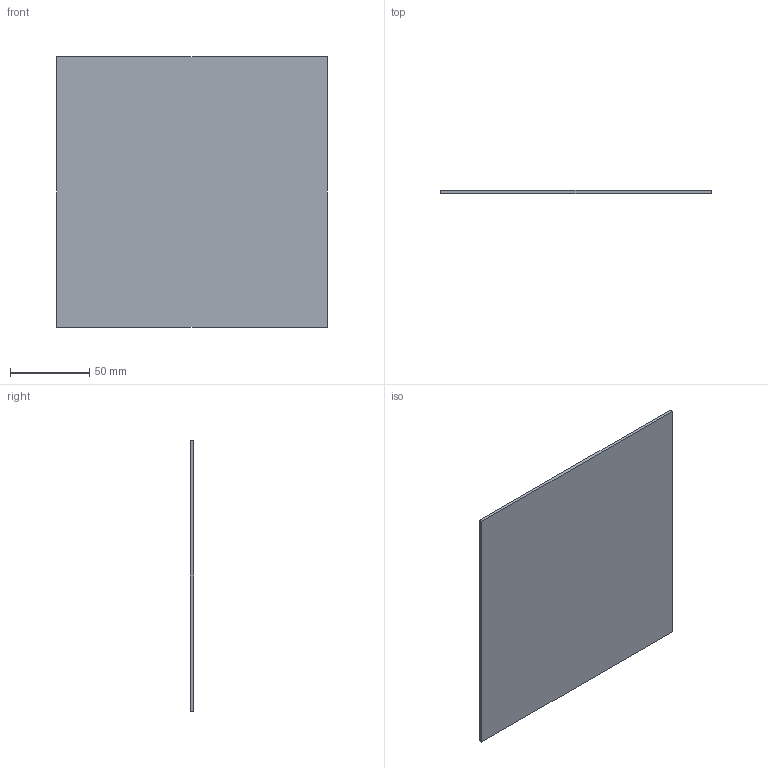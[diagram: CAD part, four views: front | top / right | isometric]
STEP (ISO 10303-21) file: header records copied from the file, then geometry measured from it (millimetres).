
FILE_DESCRIPTION(('Open CASCADE Model'),'2;1');
FILE_NAME('Open CASCADE Shape Model','2026-10-16T19:20:08',('Author'),( 'Open CASCADE'),'Open CASCADE STEP processor 7.8','Open CASCADE 7.8' ,'Unknown');
FILE_SCHEMA(('AUTOMOTIVE_DESIGN { 1 0 10303 214 1 1 1 1 }'));
Length unit declared in the file: millimetre
Products named in the file (1): Open CASCADE STEP translator 7.8 22
Bounding box: 170 x 2 x 170 mm (x, y, z)
Volume: 57800 mm3; surface area: 59160 mm2
Topology: 1 solids, 1 shells, 6 faces, 12 edges, 8 vertices
Faces by surface type: plane 6
Entity records: 322 total; most frequent: CARTESIAN_POINT 51, DIRECTION 50, LINE 36, VECTOR 36, ORIENTED_EDGE 24, PCURVE 24, DEFINITIONAL_REPRESENTATION 24, EDGE_CURVE 12
